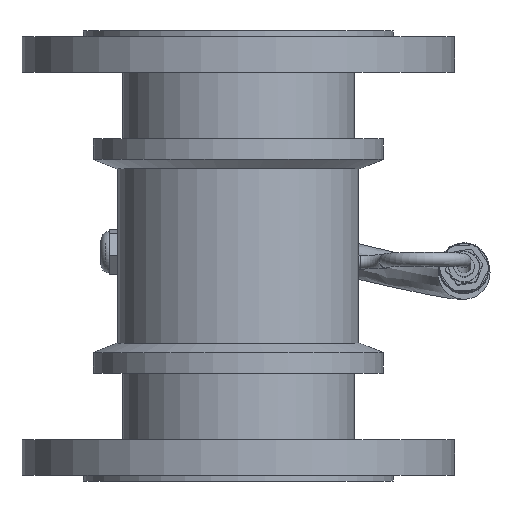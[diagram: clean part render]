
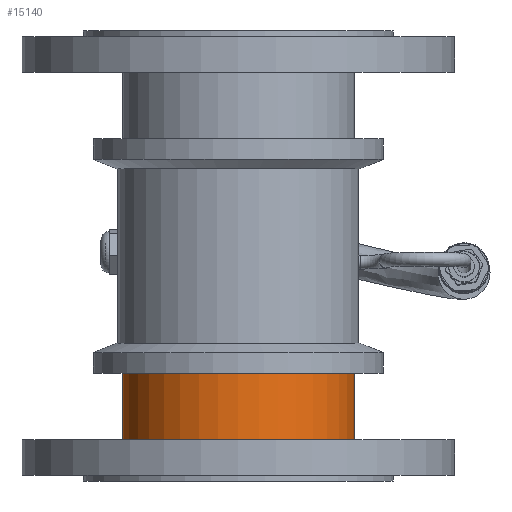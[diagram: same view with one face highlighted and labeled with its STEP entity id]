
A CAD part, front view. The second image highlights one B-rep face of the part: STEP entity #15140.
In plain terms, the highlighted cylindrical face has radius 67.073 mm (diameter 134.147 mm), a full revolution.
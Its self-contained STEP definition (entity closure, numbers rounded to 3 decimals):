
#2204=LINE('',#29893,#3335);
#3335=VECTOR('',#21629,67.073);
#3631=CYLINDRICAL_SURFACE('',#16973,67.073);
#4499=FACE_OUTER_BOUND('',#5520,.T.);
#5520=EDGE_LOOP('',(#14057,#14058,#14059,#14060));
#6255=CIRCLE('',#16969,67.073);
#6258=CIRCLE('',#16974,67.073);
#7611=VERTEX_POINT('',#29884);
#7614=VERTEX_POINT('',#29892);
#9769=EDGE_CURVE('',#7611,#7611,#6255,.T.);
#9772=EDGE_CURVE('',#7611,#7614,#2204,.T.);
#9773=EDGE_CURVE('',#7614,#7614,#6258,.T.);
#14057=ORIENTED_EDGE('',*,*,#9769,.T.);
#14058=ORIENTED_EDGE('',*,*,#9772,.T.);
#14059=ORIENTED_EDGE('',*,*,#9773,.F.);
#14060=ORIENTED_EDGE('',*,*,#9772,.F.);
#15140=ADVANCED_FACE('',(#4499),#3631,.T.);
#16969=AXIS2_PLACEMENT_3D('',#29885,#21619,#21620);
#16973=AXIS2_PLACEMENT_3D('',#29891,#21627,#21628);
#16974=AXIS2_PLACEMENT_3D('',#29894,#21630,#21631);
#21619=DIRECTION('center_axis',(0.,0.,
-1.));
#21620=DIRECTION('ref_axis',(1.,0.,0.));
#21627=DIRECTION('center_axis',(0.,0.,
1.));
#21628=DIRECTION('ref_axis',(0.,1.,0.));
#21629=DIRECTION('',(0.,0.,-1.));
#21630=DIRECTION('center_axis',(0.,0.,
-1.));
#21631=DIRECTION('ref_axis',(-1.,0.,0.));
#29884=CARTESIAN_POINT('',(-374.436,93.897,60.454));
#29885=CARTESIAN_POINT('Origin',(-374.436,160.97,60.457));
#29891=CARTESIAN_POINT('Origin',(-374.436,160.974,-0.211));
#29892=CARTESIAN_POINT('',(-374.436,93.9,-0.214));
#29893=CARTESIAN_POINT('',(-374.436,93.9,-0.215));
#29894=CARTESIAN_POINT('Origin',(-374.436,160.974,-0.211));
